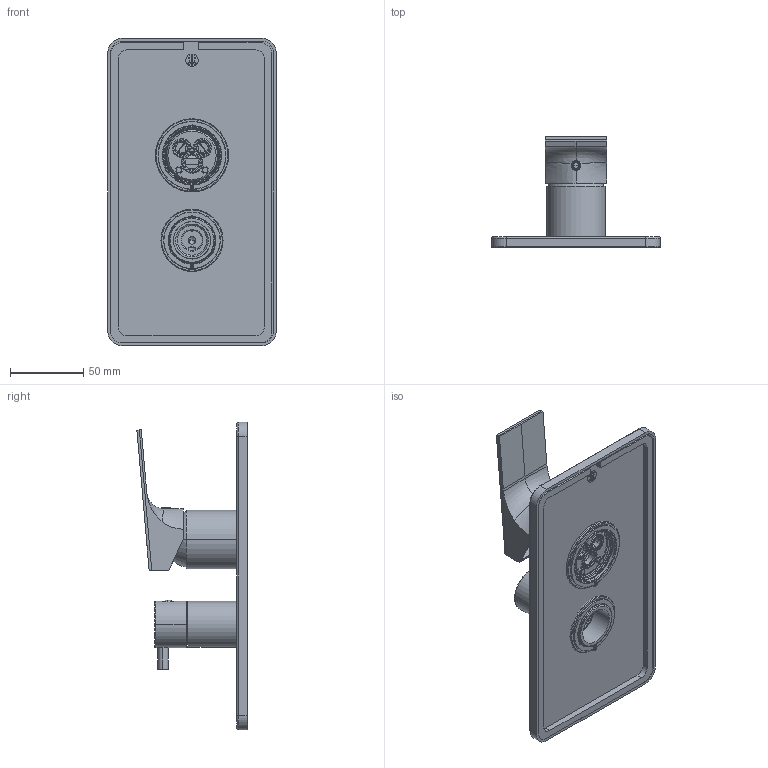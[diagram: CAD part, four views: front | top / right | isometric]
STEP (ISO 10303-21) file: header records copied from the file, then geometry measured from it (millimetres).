
FILE_DESCRIPTION((''),'2;1');
FILE_NAME('87541A_ASM','2024-12-19T14:37:21',('volponeff'),(''),'CREO PARAMETRIC BY PTC INC, 2022014','CREO PARAMETRIC BY PTC INC, 2022014','');
FILE_SCHEMA(('CONFIG_CONTROL_DESIGN'));
Length unit declared in the file: millimetre
Products named in the file (25): D507000567_AF0; D451D50352; D451D50353_AF3; A503E90163; A503E90162; D496B60233_AF0; P507000566_AF0_ASM; D465C90185_AF2; A302D40038; D460000139; D494C90058; D465000259_AF1; D494520106; D500000808; D505000045; P500000811_ASM; D451E50334; D500001404_GEN; A536A80083; A511000105; P765XX0442_ASM; D511000162; A536A80109; P765XX0570_ASM; 87541A_ASM
Assembly tree (24 placements, depth 3):
  87541A_ASM
    P507000566_AF0_ASM
      D507000567_AF0
      D451D50352
      D451D50353_AF3
      A503E90163
      A503E90162
      D496B60233_AF0
    D465C90185_AF2
    A302D40038
    D460000139
    D494C90058
    D465000259_AF1
    D494520106
    P500000811_ASM
      D500000808
      D505000045
    D451E50334
    D500001404_GEN
    P765XX0442_ASM
      A536A80083
      A511000105
    P765XX0570_ASM
      D511000162
      A536A80109
Bounding box: 115 x 75.25 x 210 mm (x, y, z)
Volume: 159131.2 mm3; surface area: 147758.4 mm2
Topology: 22 solids, 36 shells, 1592 faces, 4366 edges, 2860 vertices
Faces by surface type: cylinder 634, plane 499, cone 138, torus 122, bspline 109, extrusion 68, sphere 22
Entity records: 81046 total; most frequent: CARTESIAN_POINT 40611, ORIENTED_EDGE 8615, DIRECTION 8078, EDGE_CURVE 4338, AXIS2_PLACEMENT_3D 3031, VERTEX_POINT 2860, VECTOR 2016, LINE 1948
